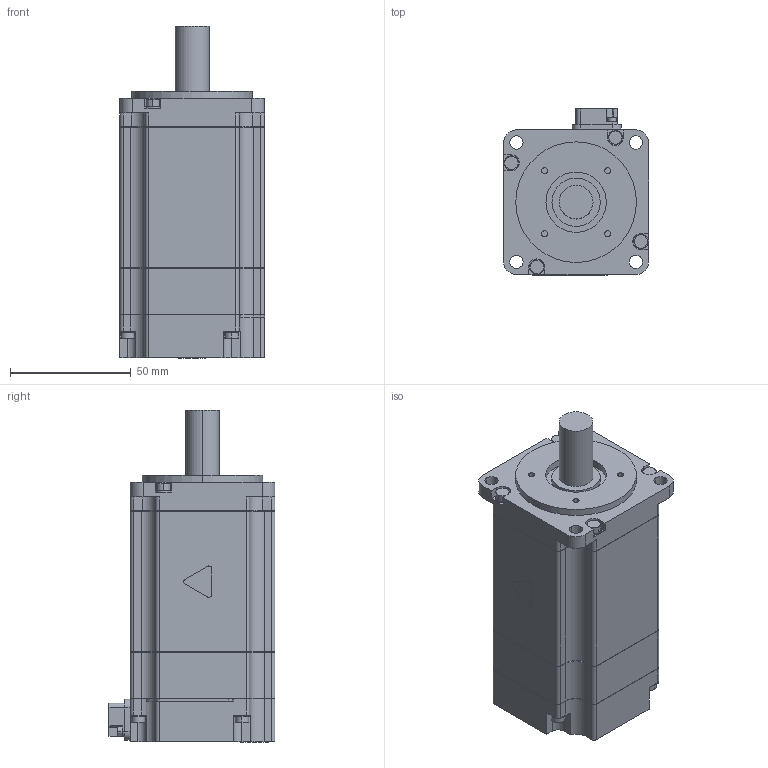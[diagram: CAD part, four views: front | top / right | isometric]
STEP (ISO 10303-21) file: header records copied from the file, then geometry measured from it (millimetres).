
FILE_DESCRIPTION((''),'2;1');
FILE_NAME('SGM7A-06A','2013-11-20T',('shibuya'),('YASKAWA ELECTRIC CORCORATION'),'PRO/ENGINEER BY PARAMETRIC TECHNOLOGY CORPORATION, 2011490','PRO/ENGINEER BY PARAMETRIC TECHNOLOGY CORPORATION, 2011490','');
FILE_SCHEMA(('AUTOMOTIVE_DESIGN { 1 0 10303 214 1 1 1 1 }'));
Length unit declared in the file: millimetre
Products named in the file (1): SGM7A-06A
Bounding box: 60.1 x 68.8 x 137.6 mm (x, y, z)
Volume: 352444.1 mm3; surface area: 36085.2 mm2
Topology: 1 solids, 5 shells, 439 faces, 1144 edges, 758 vertices
Faces by surface type: plane 234, cylinder 205
Entity records: 19062 total; most frequent: DIRECTION 2456, CARTESIAN_POINT 2343, ORIENTED_EDGE 2288, EDGE_CURVE 1144, FILL_AREA_STYLE_COLOUR 878, FILL_AREA_STYLE 878, SURFACE_STYLE_FILL_AREA 878, SURFACE_SIDE_STYLE 878
